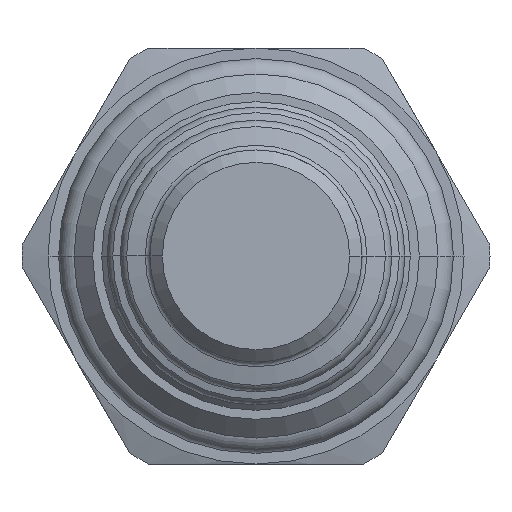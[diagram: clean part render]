
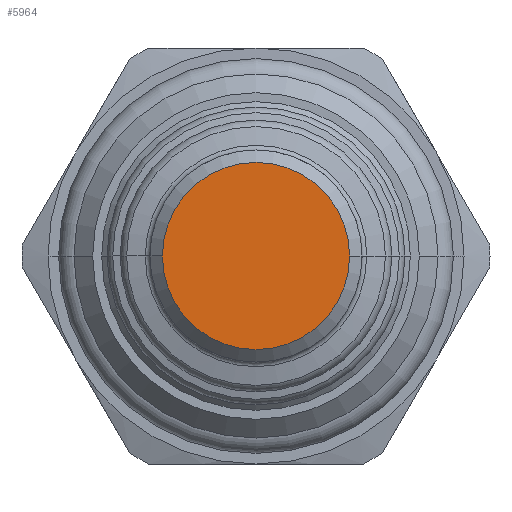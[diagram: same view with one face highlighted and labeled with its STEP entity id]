
A CAD part, front view. The second image highlights one B-rep face of the part: STEP entity #5964.
In plain terms, the highlighted planar face has unit normal (0, -1, 0).
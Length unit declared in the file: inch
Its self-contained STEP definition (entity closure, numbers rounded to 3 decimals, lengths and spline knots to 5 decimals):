
#2292=CARTESIAN_POINT('',(0.,-2.323,0.));
#2293=DIRECTION('',(0.,1.,0.));
#2294=DIRECTION('',(-1.,0.,0.));
#2295=AXIS2_PLACEMENT_3D('',#2292,#2293,#2294);
#2297=CARTESIAN_POINT('',(0.,-2.323,0.));
#2298=DIRECTION('',(0.,1.,0.));
#2299=DIRECTION('',(0.,0.,1.));
#2300=AXIS2_PLACEMENT_3D('',#2297,#2298,#2299);
#2302=CARTESIAN_POINT('',(0.,-2.323,0.));
#2303=DIRECTION('',(0.,1.,0.));
#2304=DIRECTION('',(1.,0.,0.));
#2305=AXIS2_PLACEMENT_3D('',#2302,#2303,#2304);
#2307=CARTESIAN_POINT('',(0.,-2.323,0.));
#2308=DIRECTION('',(0.,1.,0.));
#2309=DIRECTION('',(0.,0.,-1.));
#2310=AXIS2_PLACEMENT_3D('',#2307,#2308,#2309);
#2572=CARTESIAN_POINT('',(-0.225,-2.323,0.));
#2573=VERTEX_POINT('',#2572);
#2574=CARTESIAN_POINT('',(0.225,-2.323,0.));
#2575=CARTESIAN_POINT('',(0.,-2.323,-0.225));
#2576=VERTEX_POINT('',#2574);
#2577=VERTEX_POINT('',#2575);
#2578=CARTESIAN_POINT('',(0.,-2.323,0.225));
#2579=VERTEX_POINT('',#2578);
#5953=CARTESIAN_POINT('',(0.,-2.323,0.));
#5954=DIRECTION('',(0.,-1.,0.));
#5955=DIRECTION('',(-1.,0.,0.));
#5956=AXIS2_PLACEMENT_3D('',#5953,#5954,#5955);
#5957=PLANE('',#5956);
#5958=ORIENTED_EDGE('',*,*,#5947,.T.);
#5959=ORIENTED_EDGE('',*,*,#5945,.T.);
#5960=ORIENTED_EDGE('',*,*,#5930,.T.);
#5961=ORIENTED_EDGE('',*,*,#5928,.T.);
#5962=EDGE_LOOP('',(#5958,#5959,#5960,#5961));
#5963=FACE_OUTER_BOUND('',#5962,.F.);
#5964=ADVANCED_FACE('',(#5963),#5957,.T.);
#2296=CIRCLE('',#2295,0.225);
#2301=CIRCLE('',#2300,0.225);
#2306=CIRCLE('',#2305,0.225);
#2311=CIRCLE('',#2310,0.225);
#5928=EDGE_CURVE('',#2577,#2573,#2311,.T.);
#5930=EDGE_CURVE('',#2576,#2577,#2306,.T.);
#5945=EDGE_CURVE('',#2579,#2576,#2301,.T.);
#5947=EDGE_CURVE('',#2573,#2579,#2296,.T.);
